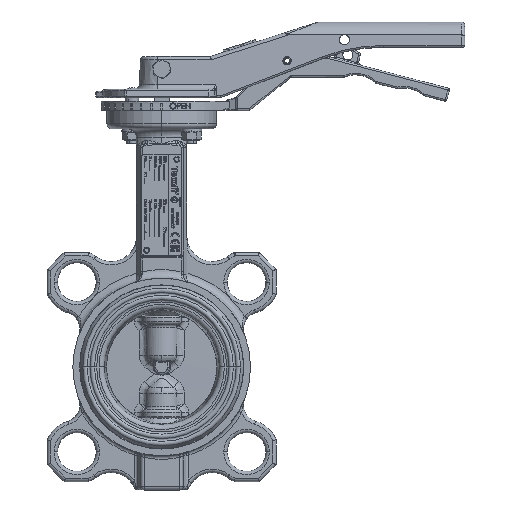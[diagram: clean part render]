
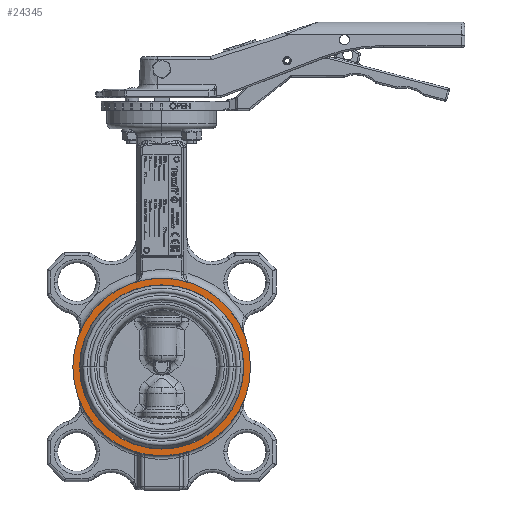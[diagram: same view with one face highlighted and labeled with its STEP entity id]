
A CAD part, top view. The second image highlights one B-rep face of the part: STEP entity #24345.
In plain terms, the highlighted planar face has unit normal (0, 0, 1).
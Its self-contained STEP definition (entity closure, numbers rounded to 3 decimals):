
#24345 = ADVANCED_FACE ( 'NONE', ( #97304, #97314 ), #97317, .F. ) ;
#42713 = AXIS2_PLACEMENT_3D ( 'NONE', #97301, #97323, #97326 ) ;
#44248 = CARTESIAN_POINT ( 'NONE',  ( -52.75, 0., 22.65 ) ) ;
#44250 = CARTESIAN_POINT ( 'NONE',  ( 52.75, 0., 22.65 ) ) ;
#44371 = CARTESIAN_POINT ( 'NONE',  ( 48.75, 0., 22.65 ) ) ;
#44391 = CARTESIAN_POINT ( 'NONE',  ( -48.75, 0., 22.65 ) ) ;
#52787 = VERTEX_POINT ( 'NONE', #44248 ) ;
#52790 = VERTEX_POINT ( 'NONE', #44250 ) ;
#52955 = VERTEX_POINT ( 'NONE', #44371 ) ;
#52983 = VERTEX_POINT ( 'NONE', #44391 ) ;
#64734 = CIRCLE ( 'NONE', #64737, 48.75 ) ;
#64737 = AXIS2_PLACEMENT_3D ( 'NONE', #182961, #182963, #182965 ) ;
#70896 = EDGE_CURVE ( 'NONE', #52983, #52955, #64734, .T. ) ;
#71547 = EDGE_CURVE ( 'NONE', #52790, #52787, #186161, .T. ) ;
#71679 = EDGE_CURVE ( 'NONE', #52787, #52790, #186283, .T. ) ;
#71778 = EDGE_CURVE ( 'NONE', #52955, #52983, #186500, .T. ) ;
#97301 = CARTESIAN_POINT ( 'NONE',  ( 0., -48.75, 22.65 ) ) ;
#97304 = FACE_BOUND ( 'NONE', #177572, .T. ) ;
#97314 = FACE_OUTER_BOUND ( 'NONE', #176619, .T. ) ;
#97317 = PLANE ( 'NONE',  #42713 ) ;
#97323 = DIRECTION ( 'NONE',  ( 0., 0., -1. ) ) ;
#97326 = DIRECTION ( 'NONE',  ( -1., 0., 0. ) ) ;
#145009 = ORIENTED_EDGE ( 'NONE', *, *, #71679, .T. ) ;
#145061 = ORIENTED_EDGE ( 'NONE', *, *, #71778, .F. ) ;
#145209 = ORIENTED_EDGE ( 'NONE', *, *, #70896, .F. ) ;
#145357 = ORIENTED_EDGE ( 'NONE', *, *, #71547, .T. ) ;
#173735 = CARTESIAN_POINT ( 'NONE',  ( 0., 0., 22.65 ) ) ;
#173736 = DIRECTION ( 'NONE',  ( 0., 0., 1. ) ) ;
#173737 = DIRECTION ( 'NONE',  ( 1., 0., 0. ) ) ;
#176619 = EDGE_LOOP ( 'NONE', ( #145357, #145009 ) ) ;
#177572 = EDGE_LOOP ( 'NONE', ( #145061, #145209 ) ) ;
#181326 = CARTESIAN_POINT ( 'NONE',  ( 0., 0., 22.65 ) ) ;
#181329 = DIRECTION ( 'NONE',  ( 0., 0., 1. ) ) ;
#181332 = DIRECTION ( 'NONE',  ( 1., 0., 0. ) ) ;
#182694 = CARTESIAN_POINT ( 'NONE',  ( 0., 0., 22.65 ) ) ;
#182696 = DIRECTION ( 'NONE',  ( 0., 0., 1. ) ) ;
#182698 = DIRECTION ( 'NONE',  ( 1., 0., 0. ) ) ;
#182961 = CARTESIAN_POINT ( 'NONE',  ( 0., 0., 22.65 ) ) ;
#182963 = DIRECTION ( 'NONE',  ( 0., 0., 1. ) ) ;
#182965 = DIRECTION ( 'NONE',  ( 1., 0., 0. ) ) ;
#186161 = CIRCLE ( 'NONE', #186164, 52.75 ) ;
#186164 = AXIS2_PLACEMENT_3D ( 'NONE', #173735, #173736, #173737 ) ;
#186283 = CIRCLE ( 'NONE', #186300, 52.75 ) ;
#186300 = AXIS2_PLACEMENT_3D ( 'NONE', #181326, #181329, #181332 ) ;
#186500 = CIRCLE ( 'NONE', #186510, 48.75 ) ;
#186510 = AXIS2_PLACEMENT_3D ( 'NONE', #182694, #182696, #182698 ) ;
